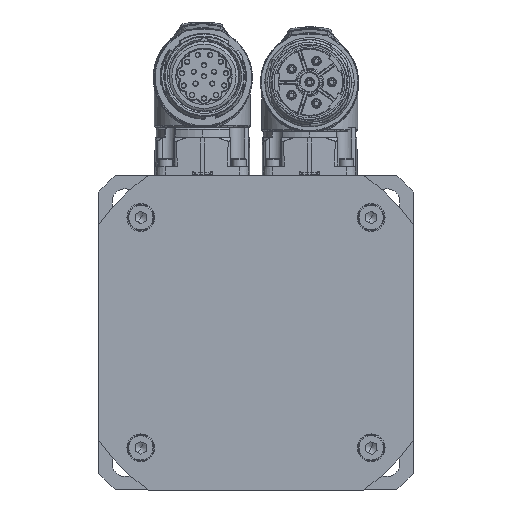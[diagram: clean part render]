
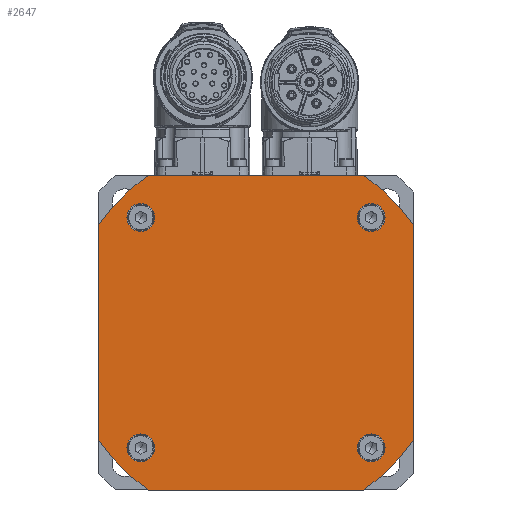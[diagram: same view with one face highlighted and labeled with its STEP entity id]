
A CAD part, left-side view. The second image highlights one B-rep face of the part: STEP entity #2647.
In plain terms, the highlighted planar face has unit normal (-1, 0, 0) as drawn and (1, 0, 0) by its records, which use the part's own axes.
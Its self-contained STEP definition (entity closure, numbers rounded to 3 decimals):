
#2478=CARTESIAN_POINT('Axis2P3D Location',(26.,0.,0.)) ;
#2482=CARTESIAN_POINT('Cartesian Point',(26.,42.5,29.086)) ;
#2484=CARTESIAN_POINT('Cartesian Point',(26.,29.086,42.5)) ;
#2513=CARTESIAN_POINT('Axis2P3D Location',(26.,0.,0.)) ;
#2518=CARTESIAN_POINT('Axis2P3D Location',(26.,0.,0.)) ;
#2522=CARTESIAN_POINT('Cartesian Point',(26.,-42.5,-29.086)) ;
#2524=CARTESIAN_POINT('Cartesian Point',(26.,-29.086,-42.5)) ;
#2527=CARTESIAN_POINT('Line Origine',(26.,0.,-42.5)) ;
#2531=CARTESIAN_POINT('Cartesian Point',(26.,29.086,-42.5)) ;
#2534=CARTESIAN_POINT('Axis2P3D Location',(26.,0.,0.)) ;
#2538=CARTESIAN_POINT('Cartesian Point',(26.,42.5,-29.086)) ;
#2541=CARTESIAN_POINT('Line Origine',(26.,42.5,0.)) ;
#2546=CARTESIAN_POINT('Line Origine',(26.,0.,42.5)) ;
#2550=CARTESIAN_POINT('Cartesian Point',(26.,-29.086,42.5)) ;
#2553=CARTESIAN_POINT('Axis2P3D Location',(26.,0.,0.)) ;
#2557=CARTESIAN_POINT('Cartesian Point',(26.,-42.5,29.086)) ;
#2560=CARTESIAN_POINT('Line Origine',(26.,-42.5,0.)) ;
#2575=CARTESIAN_POINT('Axis2P3D Location',(26.,-31.113,31.113)) ;
#2579=CARTESIAN_POINT('Cartesian Point',(26.,-34.863,31.113)) ;
#2581=CARTESIAN_POINT('Cartesian Point',(26.,-27.363,31.113)) ;
#2584=CARTESIAN_POINT('Axis2P3D Location',(26.,-31.113,31.113)) ;
#2593=CARTESIAN_POINT('Axis2P3D Location',(26.,-31.113,-31.113)) ;
#2597=CARTESIAN_POINT('Cartesian Point',(26.,-34.863,-31.113)) ;
#2599=CARTESIAN_POINT('Cartesian Point',(26.,-27.363,-31.113)) ;
#2602=CARTESIAN_POINT('Axis2P3D Location',(26.,-31.113,-31.113)) ;
#2611=CARTESIAN_POINT('Axis2P3D Location',(26.,31.113,31.113)) ;
#2615=CARTESIAN_POINT('Cartesian Point',(26.,34.863,31.113)) ;
#2617=CARTESIAN_POINT('Cartesian Point',(26.,27.363,31.113)) ;
#2620=CARTESIAN_POINT('Axis2P3D Location',(26.,31.113,31.113)) ;
#2629=CARTESIAN_POINT('Axis2P3D Location',(26.,31.113,-31.113)) ;
#2633=CARTESIAN_POINT('Cartesian Point',(26.,34.863,-31.113)) ;
#2635=CARTESIAN_POINT('Cartesian Point',(26.,27.363,-31.113)) ;
#2638=CARTESIAN_POINT('Axis2P3D Location',(26.,31.113,-31.113)) ;
#2479=DIRECTION('Axis2P3D Direction',(1.,0.,0.)) ;
#2514=DIRECTION('Axis2P3D Direction',(1.,0.,0.)) ;
#2515=DIRECTION('Axis2P3D XDirection',(0.,1.,0.)) ;
#2519=DIRECTION('Axis2P3D Direction',(1.,0.,0.)) ;
#2528=DIRECTION('Vector Direction',(0.,-1.,0.)) ;
#2535=DIRECTION('Axis2P3D Direction',(1.,0.,0.)) ;
#2542=DIRECTION('Vector Direction',(0.,0.,1.)) ;
#2547=DIRECTION('Vector Direction',(0.,1.,0.)) ;
#2554=DIRECTION('Axis2P3D Direction',(1.,0.,0.)) ;
#2561=DIRECTION('Vector Direction',(0.,0.,-1.)) ;
#2576=DIRECTION('Axis2P3D Direction',(1.,0.,0.)) ;
#2585=DIRECTION('Axis2P3D Direction',(1.,0.,0.)) ;
#2594=DIRECTION('Axis2P3D Direction',(1.,0.,0.)) ;
#2603=DIRECTION('Axis2P3D Direction',(1.,0.,0.)) ;
#2612=DIRECTION('Axis2P3D Direction',(1.,0.,0.)) ;
#2621=DIRECTION('Axis2P3D Direction',(1.,0.,0.)) ;
#2630=DIRECTION('Axis2P3D Direction',(1.,0.,0.)) ;
#2639=DIRECTION('Axis2P3D Direction',(1.,0.,0.)) ;
#2480=AXIS2_PLACEMENT_3D('Circle Axis2P3D',#2478,#2479,$) ;
#2516=AXIS2_PLACEMENT_3D('Plane Axis2P3D',#2513,#2514,#2515) ;
#2520=AXIS2_PLACEMENT_3D('Circle Axis2P3D',#2518,#2519,$) ;
#2536=AXIS2_PLACEMENT_3D('Circle Axis2P3D',#2534,#2535,$) ;
#2555=AXIS2_PLACEMENT_3D('Circle Axis2P3D',#2553,#2554,$) ;
#2577=AXIS2_PLACEMENT_3D('Circle Axis2P3D',#2575,#2576,$) ;
#2586=AXIS2_PLACEMENT_3D('Circle Axis2P3D',#2584,#2585,$) ;
#2595=AXIS2_PLACEMENT_3D('Circle Axis2P3D',#2593,#2594,$) ;
#2604=AXIS2_PLACEMENT_3D('Circle Axis2P3D',#2602,#2603,$) ;
#2613=AXIS2_PLACEMENT_3D('Circle Axis2P3D',#2611,#2612,$) ;
#2622=AXIS2_PLACEMENT_3D('Circle Axis2P3D',#2620,#2621,$) ;
#2631=AXIS2_PLACEMENT_3D('Circle Axis2P3D',#2629,#2630,$) ;
#2640=AXIS2_PLACEMENT_3D('Circle Axis2P3D',#2638,#2639,$) ;
#2566=ORIENTED_EDGE('Oriented Edge',*,*,#2526,.T.) ;
#2567=ORIENTED_EDGE('Oriented Edge',*,*,#2533,.T.) ;
#2568=ORIENTED_EDGE('Oriented Edge',*,*,#2540,.T.) ;
#2569=ORIENTED_EDGE('Oriented Edge',*,*,#2545,.T.) ;
#2570=ORIENTED_EDGE('Oriented Edge',*,*,#2486,.T.) ;
#2571=ORIENTED_EDGE('Oriented Edge',*,*,#2552,.T.) ;
#2572=ORIENTED_EDGE('Oriented Edge',*,*,#2559,.T.) ;
#2573=ORIENTED_EDGE('Oriented Edge',*,*,#2564,.T.) ;
#2590=ORIENTED_EDGE('Oriented Edge',*,*,#2583,.F.) ;
#2591=ORIENTED_EDGE('Oriented Edge',*,*,#2588,.F.) ;
#2608=ORIENTED_EDGE('Oriented Edge',*,*,#2601,.F.) ;
#2609=ORIENTED_EDGE('Oriented Edge',*,*,#2606,.F.) ;
#2626=ORIENTED_EDGE('Oriented Edge',*,*,#2619,.F.) ;
#2627=ORIENTED_EDGE('Oriented Edge',*,*,#2624,.F.) ;
#2644=ORIENTED_EDGE('Oriented Edge',*,*,#2637,.F.) ;
#2645=ORIENTED_EDGE('Oriented Edge',*,*,#2642,.F.) ;
#2592=FACE_BOUND('Face Bound',#2589,.T.) ;
#2610=FACE_BOUND('Face Bound',#2607,.T.) ;
#2628=FACE_BOUND('Face Bound',#2625,.T.) ;
#2646=FACE_BOUND('Face Bound',#2643,.T.) ;
#2529=VECTOR('Line Direction',#2528,1.) ;
#2543=VECTOR('Line Direction',#2542,1.) ;
#2548=VECTOR('Line Direction',#2547,1.) ;
#2562=VECTOR('Line Direction',#2561,1.) ;
#2647=ADVANCED_FACE('',(#2574,#2592,#2610,#2628,#2646),#2517,.T.) ;
#2481=CIRCLE('generated circle',#2480,51.5) ;
#2521=CIRCLE('generated circle',#2520,51.5) ;
#2537=CIRCLE('generated circle',#2536,51.5) ;
#2556=CIRCLE('generated circle',#2555,51.5) ;
#2578=CIRCLE('generated circle',#2577,3.75) ;
#2587=CIRCLE('generated circle',#2586,3.75) ;
#2596=CIRCLE('generated circle',#2595,3.75) ;
#2605=CIRCLE('generated circle',#2604,3.75) ;
#2614=CIRCLE('generated circle',#2613,3.75) ;
#2623=CIRCLE('generated circle',#2622,3.75) ;
#2632=CIRCLE('generated circle',#2631,3.75) ;
#2641=CIRCLE('generated circle',#2640,3.75) ;
#2486=EDGE_CURVE('',#2483,#2485,#2481,.T.) ;
#2526=EDGE_CURVE('',#2523,#2525,#2521,.T.) ;
#2533=EDGE_CURVE('',#2525,#2532,#2530,.F.) ;
#2540=EDGE_CURVE('',#2532,#2539,#2537,.T.) ;
#2545=EDGE_CURVE('',#2539,#2483,#2544,.T.) ;
#2552=EDGE_CURVE('',#2485,#2551,#2549,.F.) ;
#2559=EDGE_CURVE('',#2551,#2558,#2556,.T.) ;
#2564=EDGE_CURVE('',#2558,#2523,#2563,.T.) ;
#2583=EDGE_CURVE('',#2580,#2582,#2578,.T.) ;
#2588=EDGE_CURVE('',#2582,#2580,#2587,.T.) ;
#2601=EDGE_CURVE('',#2598,#2600,#2596,.T.) ;
#2606=EDGE_CURVE('',#2600,#2598,#2605,.T.) ;
#2619=EDGE_CURVE('',#2616,#2618,#2614,.T.) ;
#2624=EDGE_CURVE('',#2618,#2616,#2623,.T.) ;
#2637=EDGE_CURVE('',#2634,#2636,#2632,.T.) ;
#2642=EDGE_CURVE('',#2636,#2634,#2641,.T.) ;
#2565=EDGE_LOOP('Oriented Loop',(#2566,#2567,#2568,#2569,#2570,#2571,#2572,#2573)) ;
#2589=EDGE_LOOP('Oriented Loop',(#2590,#2591)) ;
#2607=EDGE_LOOP('Oriented Loop',(#2608,#2609)) ;
#2625=EDGE_LOOP('Oriented Loop',(#2626,#2627)) ;
#2643=EDGE_LOOP('Oriented Loop',(#2644,#2645)) ;
#2574=FACE_OUTER_BOUND('Face Bound',#2565,.T.) ;
#2530=LINE('Line',#2527,#2529) ;
#2544=LINE('Line',#2541,#2543) ;
#2549=LINE('Line',#2546,#2548) ;
#2563=LINE('Line',#2560,#2562) ;
#2517=PLANE('Plane',#2516) ;
#2483=VERTEX_POINT('Vertex Point',#2482) ;
#2485=VERTEX_POINT('Vertex Point',#2484) ;
#2523=VERTEX_POINT('Vertex Point',#2522) ;
#2525=VERTEX_POINT('Vertex Point',#2524) ;
#2532=VERTEX_POINT('Vertex Point',#2531) ;
#2539=VERTEX_POINT('Vertex Point',#2538) ;
#2551=VERTEX_POINT('Vertex Point',#2550) ;
#2558=VERTEX_POINT('Vertex Point',#2557) ;
#2580=VERTEX_POINT('Vertex Point',#2579) ;
#2582=VERTEX_POINT('Vertex Point',#2581) ;
#2598=VERTEX_POINT('Vertex Point',#2597) ;
#2600=VERTEX_POINT('Vertex Point',#2599) ;
#2616=VERTEX_POINT('Vertex Point',#2615) ;
#2618=VERTEX_POINT('Vertex Point',#2617) ;
#2634=VERTEX_POINT('Vertex Point',#2633) ;
#2636=VERTEX_POINT('Vertex Point',#2635) ;
